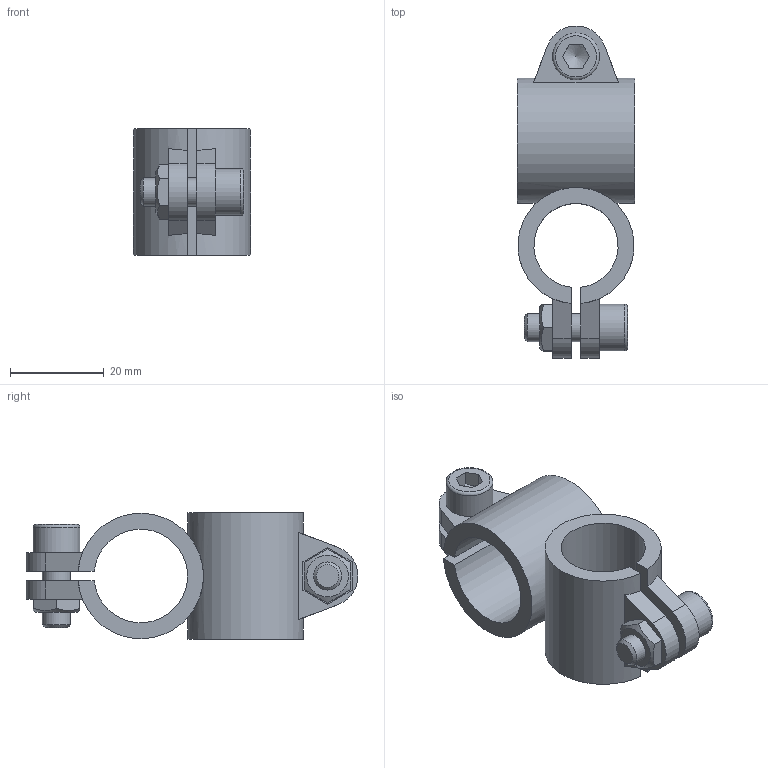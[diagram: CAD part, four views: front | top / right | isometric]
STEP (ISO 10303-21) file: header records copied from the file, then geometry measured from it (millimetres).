
FILE_DESCRIPTION((''),'2;1');
FILE_NAME('C:\Vault Klient\Projekt\Step\300-1090.stp','2009-12-04T10:31:47',('Mathias'),(''),'Autodesk Inventor 2010','Autodesk Inventor 2010','');
FILE_SCHEMA(('CONFIG_CONTROL_DESIGN'));
Length unit declared in the file: millimetre
Products named in the file (1): 300-1090
Bounding box: 25 x 70.9 x 27 mm (x, y, z)
Volume: 15455.6 mm3; surface area: 10855.2 mm2
Topology: 1 solids, 1 shells, 98 faces, 240 edges, 158 vertices
Faces by surface type: plane 68, cylinder 14, cone 8, bspline 6, torus 2
Full cylindrical faces by diameter (mm): 6 x4, 10 x2
Entity records: 2990 total; most frequent: CARTESIAN_POINT 738, ORIENTED_EDGE 422, DIRECTION 414, EDGE_CURVE 211, VERTEX_POINT 151, AXIS2_PLACEMENT_3D 147, EDGE_LOOP 138, VECTOR 120
